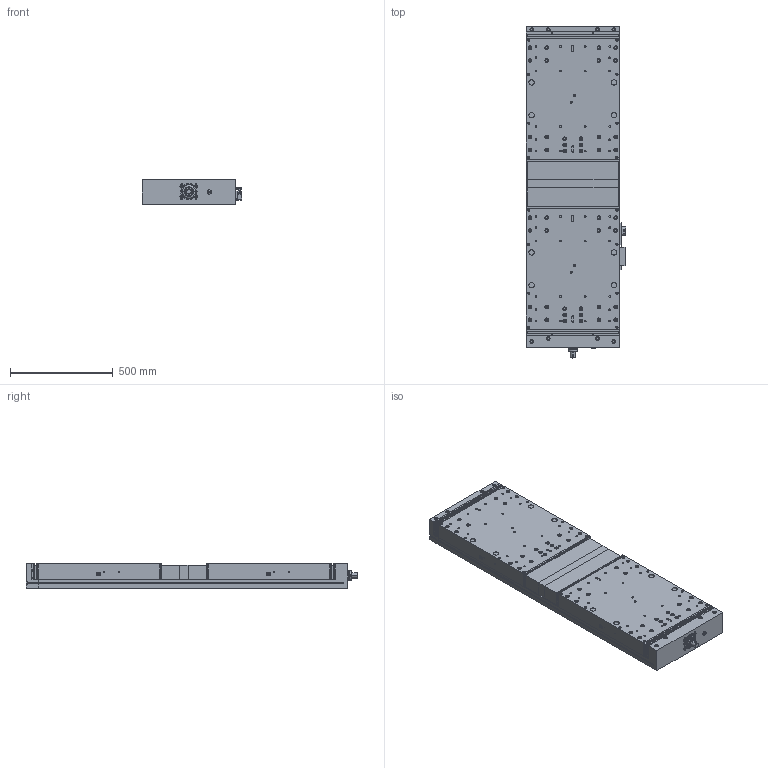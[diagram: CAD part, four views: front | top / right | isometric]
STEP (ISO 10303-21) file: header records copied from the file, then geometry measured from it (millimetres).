
FILE_DESCRIPTION(('Creo Elements/Direct Modeling STEP Export'),'2;1');
FILE_NAME('A35-B-455-RL-2x100_SP600_EMB.stp','2020-12-15T13:13:10',(''),(''),'Creo Elements/Direct Modeling STEP processor for AP214 (Solid Model)','Creo Elements/Direct Modeling 20.1D 10-Oct-2020 (C) Parametric Technology GmbH','');
FILE_SCHEMA(('AUTOMOTIVE_DESIGN { 1 0 10303 214 1 1 1 1 }'));
Length unit declared in the file: millimetre
Products named in the file (25): A35-B__Schlitten_600; A35-B__Grundkoerper; A35-B__Loslagerplatte; A35-B__Faltenbalg.02; A35-B__Faltenbalg.01; A35-B__Faltenbalg; A35-B__Faltenbalg_kpl; NS6_10561; Nutensteinpaar; Nutensteine; Schraube_M_4x30_DIN_912_8.8_vz_10045; Steuernocke_12460; Nockenhalter_13189; Steuernocke_kpl.; Befestigungsplatte_12960; NS3_10558; Schraube_M_6x12_DIN_7984_8.8_vz_22391; BNS-819-100-R-10; EMB_1; EMB_2; EMB_kpl.; A35-B-455-RL-2x100_SP600_EMB
Assembly tree (32 placements, depth 4):
  A35-B-455-RL-2x100_SP600_EMB
    A35-B__Schlitten_600  x2
    EMB_kpl.
      EMB_2
        BNS-819-100-R-10
        Schraube_M_6x12_DIN_7984_8.8_vz_22391  x2
        NS3_10558  x2
        Befestigungsplatte_12960
      EMB_1
        BNS-819-100-R-10
        Schraube_M_6x12_DIN_7984_8.8_vz_22391  x2
        NS3_10558  x2
        Befestigungsplatte_12960
      Steuernocke_kpl.
        Nockenhalter_13189
        Steuernocke_12460
        Schraube_M_4x30_DIN_912_8.8_vz_10045  x2
    Nutensteine
      Nutensteinpaar
        NS6_10561  x2
    A35-B__Faltenbalg_kpl
      A35-B__Faltenbalg
      A35-B__Faltenbalg.01
      A35-B__Faltenbalg.02
    A35-B__Loslagerplatte
    A35-B__Grundkoerper
Bounding box: 486.11 x 1619 x 120 mm (x, y, z)
Volume: 75366576.9 mm3; surface area: 5727276 mm2
Topology: 25 solids, 93 shells, 3500 faces, 8266 edges, 5355 vertices
Faces by surface type: plane 1907, cylinder 1195, cone 304, extrusion 68, torus 24, sphere 2
Entity records: 67838 total; most frequent: CARTESIAN_POINT 14446, ORIENTED_EDGE 11114, DIRECTION 9714, EDGE_CURVE 5551, VERTEX_POINT 3620, VECTOR 3616, LINE 3548, AXIS2_PLACEMENT_3D 3049
